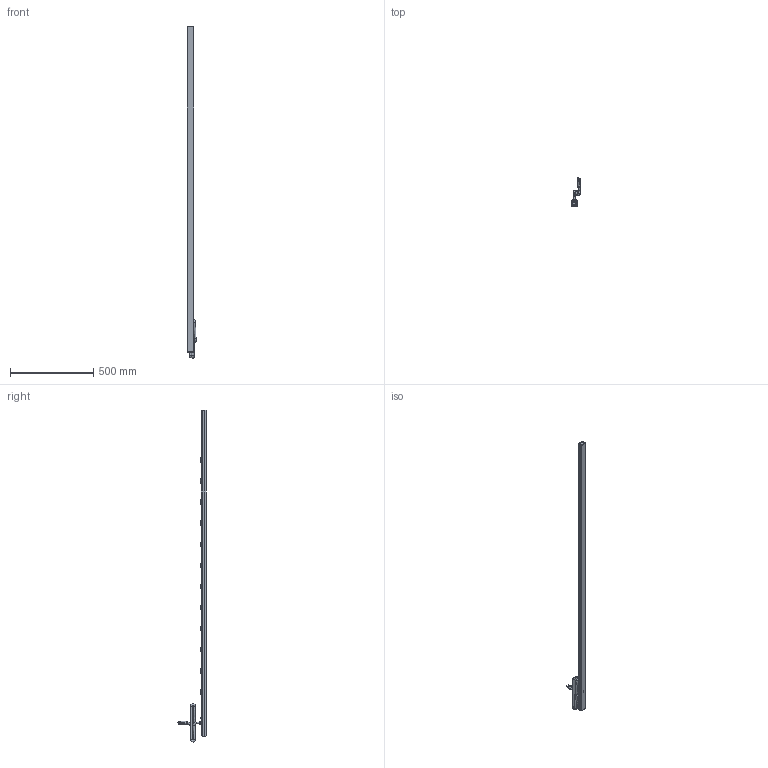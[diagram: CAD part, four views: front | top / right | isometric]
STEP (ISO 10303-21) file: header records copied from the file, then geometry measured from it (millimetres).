
FILE_DESCRIPTION((''),'2;1');
FILE_NAME('E:\Dutton\Manufacturing\drawings\Updated 2009\Vertical Rack Mount Strips\1588 Series\STEP''s\1588T12A1.stp','2010-01-19T15:26:43',('tfoster'),(''),'Autodesk Inventor 2010','Autodesk Inventor 2010','');
FILE_SCHEMA(('AUTOMOTIVE_DESIGN { 1 0 10303 214 1 1 1 1 }'));
Length unit declared in the file: inch
Products named in the file (12): 1588T12A1; 1588H12 top; 1588 bottom; End Cap; End Cap w breaker; Reset Switch; #6 - 0.375 Type A screw; Cored 2; toothwasher; round head 1-way 8-32 x 0.5 screw; Receptacle; Pilot light
Assembly tree (25 placements, depth 2):
  1588T12A1
    1588H12 top
    1588 bottom
    End Cap
    End Cap w breaker
    Reset Switch
    #6 - 0.375 Type A screw  x4
    Cored 2
    toothwasher
    round head 1-way 8-32 x 0.5 screw
    Receptacle  x12
    Pilot light
Bounding box: 60.19 x 170.82 x 1999.38 mm (x, y, z)
Volume: 705153.8 mm3; surface area: 724425.8 mm2
Topology: 25 solids, 25 shells, 1260 faces, 3560 edges, 2330 vertices
Faces by surface type: plane 776, cylinder 281, bspline 105, sphere 54, cone 29, torus 15
Full cylindrical faces by diameter (mm): 1.803 x3, 1.905 x2, 3 x2, 3.175 x12, 4.3 x1, 4.775 x1, 4.826 x1, 7.849 x1, 9.5 x5, 11 x1, 15.621 x1, 19.05 x2
Entity records: 25209 total; most frequent: CARTESIAN_POINT 8804, ORIENTED_EDGE 3534, DIRECTION 3004, EDGE_CURVE 1767, VERTEX_POINT 1251, VECTOR 1054, LINE 1054, AXIS2_PLACEMENT_3D 975
